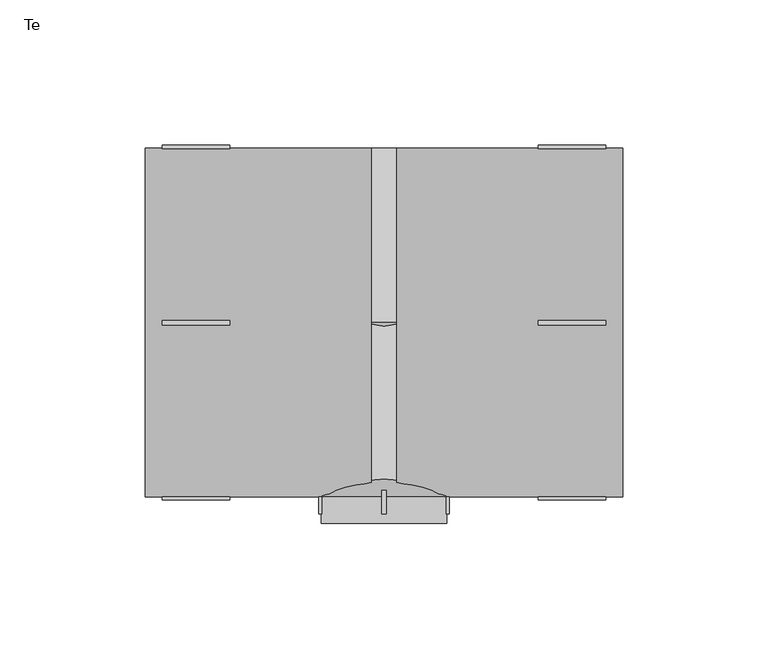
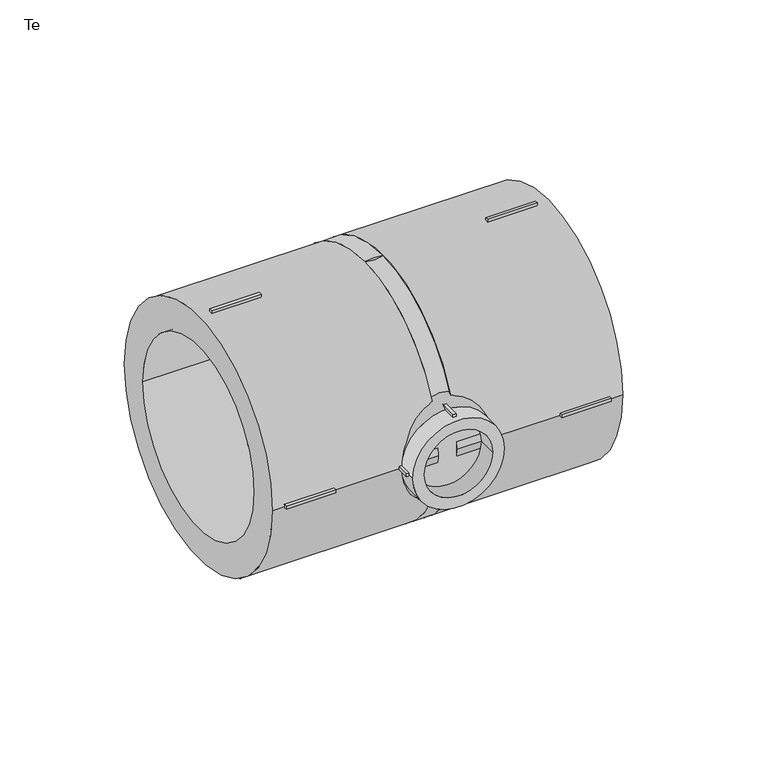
"""IFC4 building model written with IfcOpenShell, lengths in millimetres: pipe fitting geometry, EGB_VASEN_ PPR_Te WXR300_Te reducida WXR310 : Te."""

from ifc_helpers import new_model, si_unit, point, frame, origin, origin_2d, place, context, project, spatial, polyline, circle_curve, trimmed, segment, composite_curve, outline, extrude, source, transform, mapped, element, save
from ifc_brep_helpers import plane_surface, revolved_surface, advanced_brep


def te_d30f56e0(model_context):
    return source(origin(), model_context, "Body", "SolidModel", [
        extrude(outline(polyline([(-0.75, -52.5), (0.75, -52.5), (0.75, -65.7), (-0.75, -65.7), (-0.75, -52.5)])), frame((0.0, 0.0, 20.5), z_axis=(0.0, 0.0, 1.0), x_axis=(1.0, 0.0, 0.0)), (0.0, 0.0, 1.0), 2.0),
        extrude(outline(polyline([(-0.75, -52.5), (0.75, -52.5), (0.75, -65.7), (-0.75, -65.7), (-0.75, -52.5)])), frame((0.0, 0.0, -22.5), z_axis=(0.0, 0.0, 1.0), x_axis=(1.0, 0.0, 0.0)), (0.0, 0.0, 1.0), 2.0),
        extrude(outline(polyline([(20.5, -52.5), (22.5, -52.5), (22.5, -65.7), (20.5, -65.7), (20.5, -52.5)])), frame((0.0, 0.0, -0.75), z_axis=(0.0, 0.0, 1.0), x_axis=(1.0, 0.0, 0.0)), (0.0, 0.0, 1.0), 1.5),
        extrude(outline(polyline([(-22.5, -52.5), (-20.5, -52.5), (-20.5, -65.7), (-22.5, -65.7), (-22.5, -52.5)])), frame((0.0, 0.0, -0.75), z_axis=(0.0, 0.0, 1.0), x_axis=(1.0, 0.0, 0.0)), (0.0, 0.0, 1.0), 1.5),
        extrude(outline(polyline([(53.0, -0.75), (53.0, 0.75), (76.2, 0.75), (76.2, -0.75), (53.0, -0.75)])), frame((0.0, 0.0, 59.0), z_axis=(0.0, 0.0, 1.0), x_axis=(1.0, 0.0, 0.0)), (0.0, 0.0, 1.0), 2.0),
        extrude(outline(polyline([(53.0, -0.75), (53.0, 0.75), (76.2, 0.75), (76.2, -0.75), (53.0, -0.75)])), frame((0.0, 0.0, -61.0), z_axis=(0.0, 0.0, 1.0), x_axis=(1.0, 0.0, 0.0)), (0.0, 0.0, 1.0), 2.0),
        extrude(outline(polyline([(53.0, 59.0), (53.0, 61.0), (76.2, 61.0), (76.2, 59.0), (53.0, 59.0)])), frame((0.0, 0.0, -0.75), z_axis=(0.0, 0.0, 1.0), x_axis=(1.0, 0.0, 0.0)), (0.0, 0.0, 1.0), 1.5),
        extrude(outline(polyline([(53.0, -61.0), (53.0, -59.0), (76.2, -59.0), (76.2, -61.0), (53.0, -61.0)])), frame((0.0, 0.0, -0.75), z_axis=(0.0, 0.0, 1.0), x_axis=(1.0, 0.0, 0.0)), (0.0, 0.0, 1.0), 1.5),
        extrude(outline(polyline([(-53.0, 0.75), (-53.0, -0.75), (-76.2, -0.75), (-76.2, 0.75), (-53.0, 0.75)])), frame((0.0, 0.0, 59.0), z_axis=(0.0, 0.0, 1.0), x_axis=(1.0, 0.0, 0.0)), (0.0, 0.0, 1.0), 2.0),
        extrude(outline(polyline([(-53.0, 0.75), (-53.0, -0.75), (-76.2, -0.75), (-76.2, 0.75), (-53.0, 0.75)])), frame((0.0, 0.0, -61.0), z_axis=(0.0, 0.0, 1.0), x_axis=(1.0, 0.0, 0.0)), (0.0, 0.0, 1.0), 2.0),
        extrude(outline(polyline([(-53.0, 61.0), (-53.0, 59.0), (-76.2, 59.0), (-76.2, 61.0), (-53.0, 61.0)])), frame((0.0, 0.0, -0.75), z_axis=(0.0, 0.0, 1.0), x_axis=(1.0, 0.0, 0.0)), (0.0, 0.0, 1.0), 1.5),
        extrude(outline(polyline([(-53.0, -59.0), (-53.0, -61.0), (-76.2, -61.0), (-76.2, -59.0), (-53.0, -59.0)])), frame((0.0, 0.0, -0.75), z_axis=(0.0, 0.0, 1.0), x_axis=(1.0, 0.0, 0.0)), (0.0, 0.0, 1.0), 1.5),
        extrude(outline(composite_curve([segment(trimmed(circle_curve(origin_2d(), 21.5), [point((0.0, 21.5))], [point((0.0, -21.5))], False, "CARTESIAN"), True, "CONTINUOUS"), segment(trimmed(circle_curve(origin_2d(), 21.5), [point((0.0, -21.5))], [point((0.0, 21.5))], False, "CARTESIAN"), True, "CONTINUOUS")], self_intersect=False), holes=[composite_curve([segment(trimmed(circle_curve(origin_2d(), 16.0), [point((0.0, 16.0))], [point((0.0, -16.0))], True, "CARTESIAN"), True, "CONTINUOUS"), segment(trimmed(circle_curve(origin_2d(), 16.0), [point((0.0, -16.0))], [point((0.0, 16.0))], True, "CARTESIAN"), True, "CONTINUOUS")], self_intersect=False)]), frame((0.0, -69.0, 0.0), z_axis=(0.0, 1.0, 0.0), x_axis=(0.0, 0.0, 1.0)), (0.0, 0.0, 1.0), 9.0),
        extrude(outline(composite_curve([segment(trimmed(circle_curve(origin_2d(), 60.0), [point((-60.0, 0.0))], [point((60.0, 0.0))], False, "CARTESIAN"), True, "CONTINUOUS"), segment(trimmed(circle_curve(origin_2d(), 60.0), [point((60.0, 0.0))], [point((-60.0, 0.0))], False, "CARTESIAN"), True, "CONTINUOUS")], self_intersect=False), holes=[composite_curve([segment(trimmed(circle_curve(origin_2d(), 45.0), [point((-45.0, 0.0))], [point((45.0, 0.0))], True, "CARTESIAN"), True, "CONTINUOUS"), segment(trimmed(circle_curve(origin_2d(), 45.0), [point((45.0, 0.0))], [point((-45.0, 0.0))], True, "CARTESIAN"), True, "CONTINUOUS")], self_intersect=False)]), frame((4.36, 0.0, 0.0), z_axis=(1.0, 0.0, 0.0), x_axis=(0.0, 1.0, 0.0)), (0.0, 0.0, 1.0), 77.64),
        extrude(outline(composite_curve([segment(trimmed(circle_curve(origin_2d(), 60.0), [point((-60.0, 0.0))], [point((60.0, 0.0))], False, "CARTESIAN"), True, "CONTINUOUS"), segment(trimmed(circle_curve(origin_2d(), 60.0), [point((60.0, 0.0))], [point((-60.0, 0.0))], False, "CARTESIAN"), True, "CONTINUOUS")], self_intersect=False), holes=[composite_curve([segment(trimmed(circle_curve(origin_2d(), 45.0), [point((-45.0, 0.0))], [point((45.0, 0.0))], True, "CARTESIAN"), True, "CONTINUOUS"), segment(trimmed(circle_curve(origin_2d(), 45.0), [point((45.0, 0.0))], [point((-45.0, 0.0))], True, "CARTESIAN"), True, "CONTINUOUS")], self_intersect=False)]), frame((-82.0, 0.0, 0.0), z_axis=(1.0, 0.0, 0.0), x_axis=(0.0, 1.0, 0.0)), (0.0, 0.0, 1.0), 77.64),
        advanced_brep(
        [(60.0, 0.0, 0.0), (-60.0, 0.0, 0.0), (21.5, -60.0, 0.0), (-21.5, -60.0, 0.0)],
        [
            (0, 1, circle_curve(frame((0.0, 0.0, 0.0), z_axis=(0.0, 1.0, 0.0), x_axis=(1.0, 0.0, 0.0)), 60.0)),
            (1, 0, circle_curve(frame((0.0, 0.0, 0.0), z_axis=(0.0, 1.0, 0.0), x_axis=(-1.0, 0.0, 0.0)), 60.0)),
            (2, 3, circle_curve(frame((0.0, -60.0, 0.0), z_axis=(0.0, -1.0, 0.0), x_axis=(-1.0, 0.0, 0.0)), 21.5)),
            (3, 2, circle_curve(frame((0.0, -60.0, 0.0), z_axis=(0.0, -1.0, 0.0), x_axis=(1.0, 0.0, 0.0)), 21.5)),
            (3, 1),
            (0, 2),
        ],
        [
            plane_surface(frame((0.0, 0.0, 0.0), z_axis=(0.0, 1.0, 0.0), x_axis=(0.0, 0.0, -1.0))),
            plane_surface(frame((0.0, -60.0, 0.0), z_axis=(0.0, -1.0, 0.0), x_axis=(0.0, 0.0, -1.0))),
            revolved_surface(polyline([(-21.49999999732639, -60.0, 0.0), (-60.0, 0.0, 0.0)]), (0.0, -93.5064935, 0.0), (0.0, 1.0, 0.0)),
            revolved_surface(polyline([(21.49999999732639, -60.0, 0.0), (60.0, 0.0, 0.0)]), (0.0, -93.5064935, 0.0), (0.0, 1.0, 0.0)),
        ],
        [
            (0, [[1, 2]]),
            (1, [[3, 4]]),
            (2, [[-4, 5, -1, 6]]),
            (3, [[-3, -6, -2, -5]]),
        ],
    ),
        extrude(outline(composite_curve([segment(trimmed(circle_curve(origin_2d(), 60.0), [point((-60.0, 0.0))], [point((60.0, 0.0))], False, "CARTESIAN"), True, "CONTINUOUS"), segment(trimmed(circle_curve(origin_2d(), 60.0), [point((60.0, 0.0))], [point((-60.0, 0.0))], False, "CARTESIAN"), True, "CONTINUOUS")], self_intersect=False)), frame((-4.36, 0.0, 0.0), z_axis=(1.0, 0.0, 0.0), x_axis=(0.0, 1.0, 0.0)), (0.0, 0.0, 1.0), 8.72),
    ])


if __name__ == "__main__":
    model = new_model("IFC4")
    model_context = context("Model", 3, world=origin())
    ifc_project = project(units=[si_unit("LENGTHUNIT", "METRE", prefix="MILLI")], contexts=[model_context])
    site = spatial("IfcSite", under=ifc_project)
    building = spatial("IfcBuilding", under=site)
    placement = place(None, origin())
    te_shape = te_d30f56e0(model_context)
    element("IfcPipeFitting", 1, ObjectType="EGB_VASEN_ PPR_Te WXR300_Te reducida WXR310 : Te", at=placement, inside=building, context=model_context, shape_type="MappedRepresentation", body=[
        mapped(te_shape, transform((0.0, 0.0, 0.0), x_axis=(1.0, 0.0, 0.0), y_axis=(0.0, 1.0, 0.0), z_axis=(0.0, 0.0, 1.0))),
    ])
    save(model, "model.ifc")
